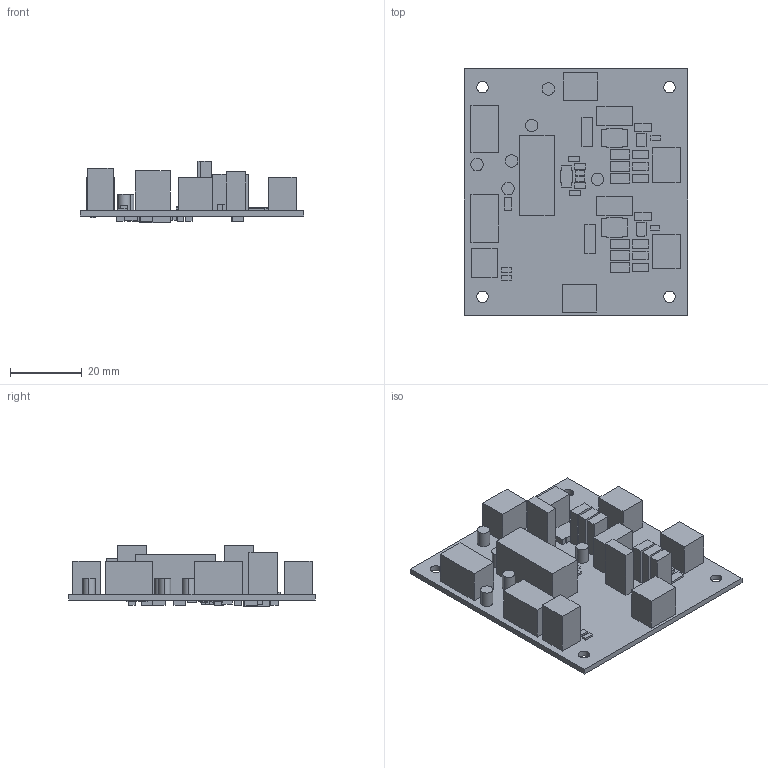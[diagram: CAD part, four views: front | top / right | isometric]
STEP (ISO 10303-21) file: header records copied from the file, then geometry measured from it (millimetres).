
FILE_DESCRIPTION(/* description */ ('PCB Design'),/* implementation_level */ '2;1');
FILE_NAME(/* name */ 'oi_servocoildrive',/* time_stamp */ '2019-04-24T15:24:22-07:00',/* author */ ('emartin'),/* organization */ (''),/* preprocessor_version */ 'ST-DEVELOPER v16',/* originating_system */ 'allegro_17.2S045',/* authorisation */ '');
FILE_SCHEMA (('AUTOMOTIVE_DESIGN { 1 0 10303 214 3 1 1 }'));
Length unit declared in the file: millimetre
Products named in the file (28): OI_SERVOCOILDRIVE; BOARD_OUTLINE; COMPONENTS; SOT230P700X180-4N; MOLEX_70543-2PIN; CENTRALSEMI_ULTRAMINI_SOD-523; HDRV3W64P254_3X1_762X254H1363B; RESC3216X60N; TRIM_3296Y; CAPC3216X88N; TE_87227-2PIN; TE_RQ73-2B; VISHAY_ACAS-0612; ANALOG_R-8; RESC1608X55N; VISHAY_CRCW-0603_RESC; MURATA_GCM21B-0805_CAPC; RESC1608X50N; LINEAR_MS8; PHOENIX_1803439; PHOENIX_1803426; SOT65P210X110-3N_132; CAPMP3528X120N; CAPC2012X140N; TP_KEYSTONE_5000S_MINI; MBARI_TBD0603_RESC; VISHAY_SOT-23; RECOM_RS3_S-D
Assembly tree (71 placements, depth 3):
  OI_SERVOCOILDRIVE
    BOARD_OUTLINE
    COMPONENTS
      SOT230P700X180-4N
      MOLEX_70543-2PIN
      CENTRALSEMI_ULTRAMINI_SOD-523
      HDRV3W64P254_3X1_762X254H1363B  x2
      RESC3216X60N  x4
      TRIM_3296Y  x2
      CAPC3216X88N  x2
      TE_87227-2PIN  x6
      TE_RQ73-2B  x2
      VISHAY_ACAS-0612  x2
      ANALOG_R-8  x2
      RESC1608X55N  x4
      VISHAY_CRCW-0603_RESC  x4
      MURATA_GCM21B-0805_CAPC  x4
      RESC1608X50N  x4
      LINEAR_MS8
      PHOENIX_1803439  x2
      PHOENIX_1803426  x4
      SOT65P210X110-3N_132
      CAPMP3528X120N
      CAPC2012X140N  x7
      TP_KEYSTONE_5000S_MINI  x6
      MBARI_TBD0603_RESC  x4
      VISHAY_SOT-23
      RECOM_RS3_S-D
Bounding box: 62.23 x 68.58 x 17.01 mm (x, y, z)
Surface area: 18186.9 mm2 (no closed solid volume)
Topology: 0 solids, 70 shells, 472 faces, 1070 edges, 664 vertices
Faces by surface type: plane 452, cylinder 20
Entity records: 6419 total; most frequent: ORIENTED_EDGE 900, DIRECTION 741, EDGE_CURVE 480, VECTOR 460, LINE 460, CARTESIAN_POINT 460, AXIS2_PLACEMENT_3D 364, VERTEX_POINT 360
